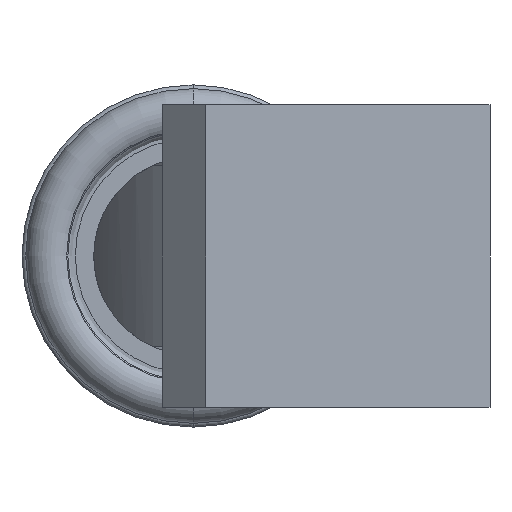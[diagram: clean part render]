
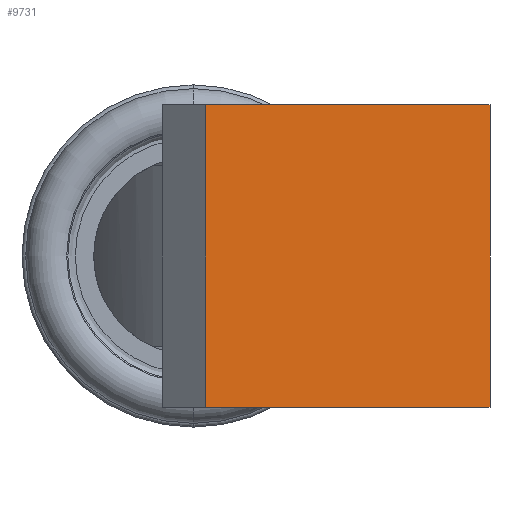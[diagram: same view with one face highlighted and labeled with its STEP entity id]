
A CAD part, left-side view. The second image highlights one B-rep face of the part: STEP entity #9731.
In plain terms, the highlighted planar face has unit normal (-0.998, -0.069, 0).
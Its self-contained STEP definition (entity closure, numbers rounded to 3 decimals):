
#367 = VERTEX_POINT ( 'NONE', #18238 ) ;
#393 = DIRECTION ( 'NONE',  ( -0.069, 0.998, 0. ) ) ;
#741 = CARTESIAN_POINT ( 'NONE',  ( -138.719, -11.973, -6.1 ) ) ;
#1053 = CARTESIAN_POINT ( 'NONE',  ( -138.88, -9.648, -15. ) ) ;
#1411 = CARTESIAN_POINT ( 'NONE',  ( -139.516, -0.5, 6.1 ) ) ;
#2519 = CARTESIAN_POINT ( 'NONE',  ( -138.88, -9.648, 6.1 ) ) ;
#2839 = LINE ( 'NONE', #10025, #6158 ) ;
#3316 = EDGE_CURVE ( 'NONE', #4929, #18507, #6595, .T. ) ;
#3698 = EDGE_CURVE ( 'NONE', #4929, #367, #21066, .T. ) ;
#4686 = CARTESIAN_POINT ( 'NONE',  ( -138.719, -11.973, -15. ) ) ;
#4929 = VERTEX_POINT ( 'NONE', #741 ) ;
#5777 = EDGE_CURVE ( 'NONE', #18507, #17445, #2839, .T. ) ;
#6158 = VECTOR ( 'NONE', #8251, 1000. ) ;
#6595 = LINE ( 'NONE', #22653, #18868 ) ;
#7909 = AXIS2_PLACEMENT_3D ( 'NONE', #1053, #8248, #19002 ) ;
#8248 = DIRECTION ( 'NONE',  ( 0.998, 0.069, 0. ) ) ;
#8251 = DIRECTION ( 'NONE',  ( 0., 0., 1. ) ) ;
#8302 = EDGE_CURVE ( 'NONE', #367, #17445, #20344, .T. ) ;
#8666 = VECTOR ( 'NONE', #19192, 1000. ) ;
#9731 = ADVANCED_FACE ( 'NONE', ( #21105 ), #17454, .F. ) ;
#10025 = CARTESIAN_POINT ( 'NONE',  ( -139.516, -0.5, -15. ) ) ;
#12008 = DIRECTION ( 'NONE',  ( -0.069, 0.998, 0. ) ) ;
#15843 = ORIENTED_EDGE ( 'NONE', *, *, #8302, .T. ) ;
#16455 = ORIENTED_EDGE ( 'NONE', *, *, #5777, .F. ) ;
#17445 = VERTEX_POINT ( 'NONE', #1411 ) ;
#17454 = PLANE ( 'NONE',  #7909 ) ;
#18238 = CARTESIAN_POINT ( 'NONE',  ( -138.719, -11.973, 6.1 ) ) ;
#18440 = ORIENTED_EDGE ( 'NONE', *, *, #3316, .F. ) ;
#18507 = VERTEX_POINT ( 'NONE', #23100 ) ;
#18586 = ORIENTED_EDGE ( 'NONE', *, *, #3698, .T. ) ;
#18741 = VECTOR ( 'NONE', #393, 1000. ) ;
#18868 = VECTOR ( 'NONE', #12008, 1000. ) ;
#19002 = DIRECTION ( 'NONE',  ( -0.069, 0.998, 0. ) ) ;
#19192 = DIRECTION ( 'NONE',  ( 0., 0., 1. ) ) ;
#20344 = LINE ( 'NONE', #2519, #18741 ) ;
#21066 = LINE ( 'NONE', #4686, #8666 ) ;
#21105 = FACE_OUTER_BOUND ( 'NONE', #22053, .T. ) ;
#22053 = EDGE_LOOP ( 'NONE', ( #18440, #18586, #15843, #16455 ) ) ;
#22653 = CARTESIAN_POINT ( 'NONE',  ( -138.88, -9.648, -6.1 ) ) ;
#23100 = CARTESIAN_POINT ( 'NONE',  ( -139.516, -0.5, -6.1 ) ) ;
